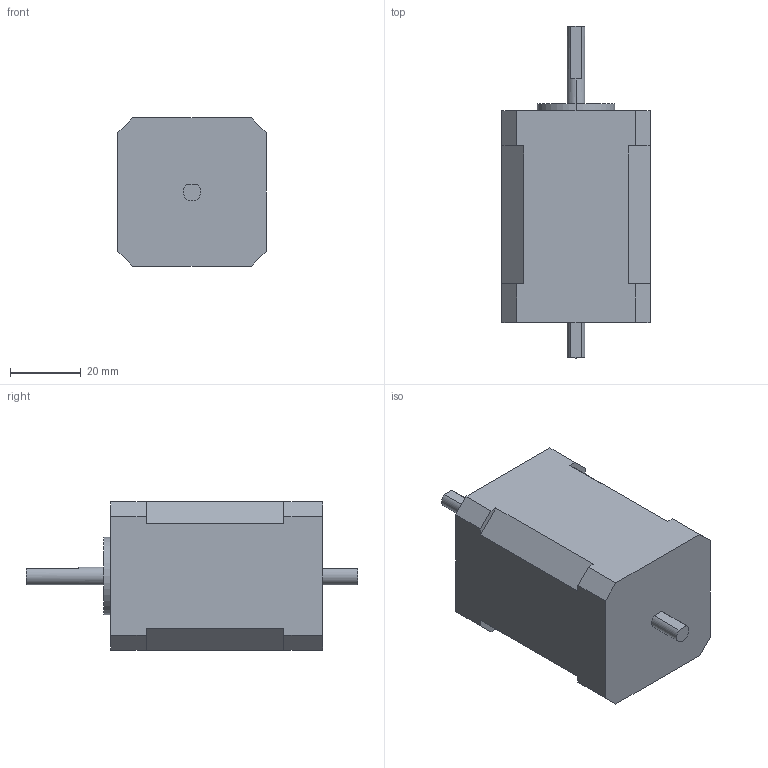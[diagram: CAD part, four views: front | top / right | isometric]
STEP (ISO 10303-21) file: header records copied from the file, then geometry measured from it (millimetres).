
FILE_DESCRIPTION (( 'STEP AP214' ), '1' );
FILE_NAME ('42A08-D（42HS60-DC0524-005）.STEP', '2020-05-14T04:11:39', ( 'wimxt.com' ), ( 'wimxt.com' ), 'SwSTEP 2.0', 'SolidWorks 2014', '' );
FILE_SCHEMA (( 'AUTOMOTIVE_DESIGN' ));
Length unit declared in the file: millimetre
Products named in the file (1): 42A08-D（42HS60-DC0524-005）
Bounding box: 42 x 94 x 42 mm (x, y, z)
Volume: 101801.3 mm3; surface area: 15699.6 mm2
Topology: 1 solids, 1 shells, 49 faces, 120 edges, 80 vertices
Faces by surface type: plane 36, cylinder 13
Entity records: 1476 total; most frequent: CARTESIAN_POINT 250, DIRECTION 248, ORIENTED_EDGE 240, EDGE_CURVE 120, VECTOR 92, LINE 92, VERTEX_POINT 80, AXIS2_PLACEMENT_3D 78
